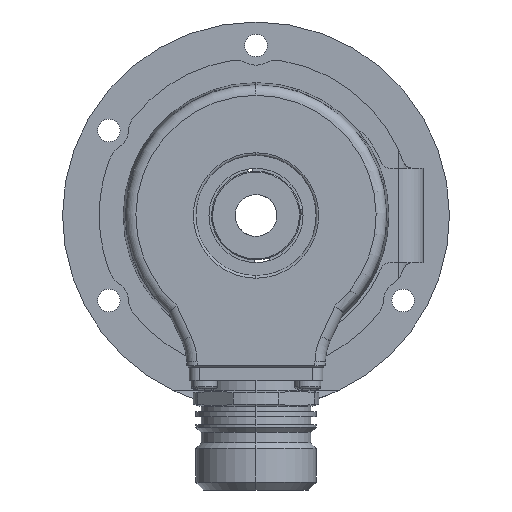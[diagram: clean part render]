
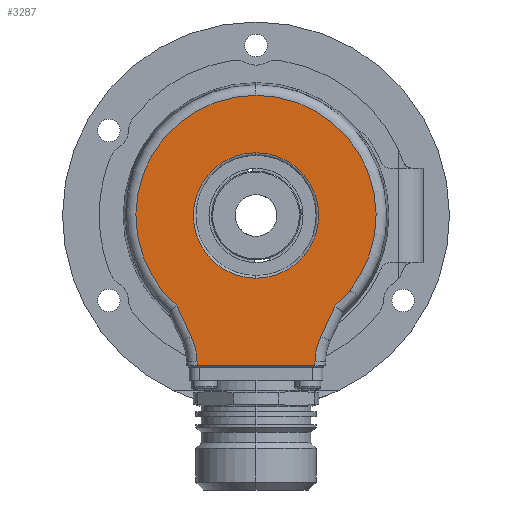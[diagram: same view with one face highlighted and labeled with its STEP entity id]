
A CAD part, left-side view. The second image highlights one B-rep face of the part: STEP entity #3287.
In plain terms, the highlighted planar face has unit normal (-1, 0, 0).
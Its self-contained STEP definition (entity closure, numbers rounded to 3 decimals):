
#2775 = EDGE_CURVE ( 'NONE', #2929, #3088, #13150, .T. ) ;
#2817 = VERTEX_POINT ( 'NONE', #13271 ) ;
#2819 = EDGE_CURVE ( 'NONE', #2820, #2817, #13270, .T. ) ;
#2820 = VERTEX_POINT ( 'NONE', #13265 ) ;
#2852 = EDGE_CURVE ( 'NONE', #2964, #2865, #13371, .T. ) ;
#2858 = EDGE_CURVE ( 'NONE', #2865, #2867, #13408, .T. ) ;
#2865 = VERTEX_POINT ( 'NONE', #13440 ) ;
#2867 = VERTEX_POINT ( 'NONE', #13441 ) ;
#2901 = VERTEX_POINT ( 'NONE', #13540 ) ;
#2902 = VERTEX_POINT ( 'NONE', #13539 ) ;
#2908 = VERTEX_POINT ( 'NONE', #13570 ) ;
#2910 = EDGE_CURVE ( 'NONE', #2902, #2908, #13569, .T. ) ;
#2921 = EDGE_CURVE ( 'NONE', #2867, #2902, #13640, .T. ) ;
#2929 = VERTEX_POINT ( 'NONE', #13685 ) ;
#2964 = VERTEX_POINT ( 'NONE', #13806 ) ;
#2966 = EDGE_CURVE ( 'NONE', #2901, #2964, #13804, .T. ) ;
#2991 = EDGE_CURVE ( 'NONE', #2908, #2929, #13882, .T. ) ;
#3044 = VERTEX_POINT ( 'NONE', #14010 ) ;
#3046 = EDGE_CURVE ( 'NONE', #3088, #3044, #14011, .T. ) ;
#3088 = VERTEX_POINT ( 'NONE', #14190 ) ;
#3139 = ORIENTED_EDGE ( 'NONE', *, *, #2991, .T. ) ;
#3147 = ORIENTED_EDGE ( 'NONE', *, *, #2852, .T. ) ;
#3148 = ORIENTED_EDGE ( 'NONE', *, *, #2858, .T. ) ;
#3149 = ORIENTED_EDGE ( 'NONE', *, *, #2921, .T. ) ;
#3150 = ORIENTED_EDGE ( 'NONE', *, *, #2910, .T. ) ;
#3213 = ORIENTED_EDGE ( 'NONE', *, *, #3286, .T. ) ;
#3230 = EDGE_LOOP ( 'NONE', ( #3231, #3232, #3234, #3236, #3147, #3148, #3149, #3150, #3139 ) ) ;
#3231 = ORIENTED_EDGE ( 'NONE', *, *, #2775, .T. ) ;
#3232 = ORIENTED_EDGE ( 'NONE', *, *, #3046, .T. ) ;
#3234 = ORIENTED_EDGE ( 'NONE', *, *, #3235, .T. ) ;
#3235 = EDGE_CURVE ( 'NONE', #3044, #2901, #14418, .T. ) ;
#3236 = ORIENTED_EDGE ( 'NONE', *, *, #2966, .T. ) ;
#3286 = EDGE_CURVE ( 'NONE', #2817, #2820, #15544, .T. ) ;
#3287 = ADVANCED_FACE ( 'NONE', ( #15534, #15533 ), #15570, .F. ) ;
#3288 = EDGE_LOOP ( 'NONE', ( #3289, #3213 ) ) ;
#3289 = ORIENTED_EDGE ( 'NONE', *, *, #2819, .T. ) ;
#13147 = DIRECTION ( 'NONE',  ( 0., -0.017, -1. ) ) ;
#13148 = VECTOR ( 'NONE', #13147, 1000. ) ;
#13149 = CARTESIAN_POINT ( 'NONE',  ( -21., 11.752, -0.205 ) ) ;
#13150 = LINE ( 'NONE', #13149, #13148 ) ;
#13265 = CARTESIAN_POINT ( 'NONE',  ( -21., 0., 12. ) ) ;
#13266 = DIRECTION ( 'NONE',  ( 0., 0., 1. ) ) ;
#13267 = DIRECTION ( 'NONE',  ( 1., 0., 0. ) ) ;
#13268 = CARTESIAN_POINT ( 'NONE',  ( -21., 0., 0. ) ) ;
#13269 = AXIS2_PLACEMENT_3D ( 'NONE', #13268, #13267, #13266 ) ;
#13270 = CIRCLE ( 'NONE', #13269, 12. ) ;
#13271 = CARTESIAN_POINT ( 'NONE',  ( -21., 0., -12. ) ) ;
#13368 = DIRECTION ( 'NONE',  ( 0., -0.423, 0.906 ) ) ;
#13369 = VECTOR ( 'NONE', #13368, 1000. ) ;
#13370 = CARTESIAN_POINT ( 'NONE',  ( -21., -14.953, -17.615 ) ) ;
#13371 = LINE ( 'NONE', #13370, #13369 ) ;
#13400 = DIRECTION ( 'NONE',  ( 0., 0., 1. ) ) ;
#13401 = DIRECTION ( 'NONE',  ( -1., 0., 0. ) ) ;
#13402 = CARTESIAN_POINT ( 'NONE',  ( -21., 0., 0. ) ) ;
#13403 = AXIS2_PLACEMENT_3D ( 'NONE', #13402, #13401, #13400 ) ;
#13408 = CIRCLE ( 'NONE', #13403, 22.972 ) ;
#13440 = CARTESIAN_POINT ( 'NONE',  ( -21., -15.091, -17.32 ) ) ;
#13441 = CARTESIAN_POINT ( 'NONE',  ( -21., 0., 22.972 ) ) ;
#13539 = CARTESIAN_POINT ( 'NONE',  ( -21., 15.091, -17.32 ) ) ;
#13540 = CARTESIAN_POINT ( 'NONE',  ( -21., -11.268, -27.974 ) ) ;
#13566 = DIRECTION ( 'NONE',  ( 0., -0.423, -0.906 ) ) ;
#13567 = VECTOR ( 'NONE', #13566, 1000. ) ;
#13568 = CARTESIAN_POINT ( 'NONE',  ( -21., 12.39, -23.112 ) ) ;
#13569 = LINE ( 'NONE', #13568, #13567 ) ;
#13570 = CARTESIAN_POINT ( 'NONE',  ( -21., 12.39, -23.112 ) ) ;
#13631 = DIRECTION ( 'NONE',  ( 0., 0., 1. ) ) ;
#13632 = DIRECTION ( 'NONE',  ( -1., 0., 0. ) ) ;
#13633 = CARTESIAN_POINT ( 'NONE',  ( -21., 0., 0. ) ) ;
#13634 = AXIS2_PLACEMENT_3D ( 'NONE', #13633, #13632, #13631 ) ;
#13640 = CIRCLE ( 'NONE', #13634, 22.972 ) ;
#13685 = CARTESIAN_POINT ( 'NONE',  ( -21., 11.268, -27.974 ) ) ;
#13800 = DIRECTION ( 'NONE',  ( 0., 0., 1. ) ) ;
#13801 = DIRECTION ( 'NONE',  ( 1., 0., 0. ) ) ;
#13802 = CARTESIAN_POINT ( 'NONE',  ( -21., -23.266, -28.183 ) ) ;
#13803 = AXIS2_PLACEMENT_3D ( 'NONE', #13802, #13801, #13800 ) ;
#13804 = CIRCLE ( 'NONE', #13803, 12. ) ;
#13806 = CARTESIAN_POINT ( 'NONE',  ( -21., -12.39, -23.112 ) ) ;
#13879 = DIRECTION ( 'NONE',  ( 0., 0., 1. ) ) ;
#13880 = DIRECTION ( 'NONE',  ( 1., 0., 0. ) ) ;
#13881 = AXIS2_PLACEMENT_3D ( 'NONE', #13885, #13880, #13879 ) ;
#13882 = CIRCLE ( 'NONE', #13881, 12. ) ;
#13885 = CARTESIAN_POINT ( 'NONE',  ( -21., 23.266, -28.183 ) ) ;
#14010 = CARTESIAN_POINT ( 'NONE',  ( -21., -11.255, -28.695 ) ) ;
#14011 = LINE ( 'NONE', #14053, #14052 ) ;
#14051 = DIRECTION ( 'NONE',  ( 0., -1., 0. ) ) ;
#14052 = VECTOR ( 'NONE', #14051, 1000. ) ;
#14053 = CARTESIAN_POINT ( 'NONE',  ( -21., -11.25, -28.695 ) ) ;
#14190 = CARTESIAN_POINT ( 'NONE',  ( -21., 11.255, -28.695 ) ) ;
#14416 = VECTOR ( 'NONE', #15365, 1000. ) ;
#14417 = CARTESIAN_POINT ( 'NONE',  ( -21., -11.752, -0.205 ) ) ;
#14418 = LINE ( 'NONE', #14417, #14416 ) ;
#15365 = DIRECTION ( 'NONE',  ( 0., -0.017, 1. ) ) ;
#15533 = FACE_OUTER_BOUND ( 'NONE', #3230, .T. ) ;
#15534 = FACE_BOUND ( 'NONE', #3288, .T. ) ;
#15535 = DIRECTION ( 'NONE',  ( 0., 0., 1. ) ) ;
#15536 = DIRECTION ( 'NONE',  ( 1., 0., 0. ) ) ;
#15537 = CARTESIAN_POINT ( 'NONE',  ( -21., 0., 0. ) ) ;
#15538 = AXIS2_PLACEMENT_3D ( 'NONE', #15537, #15536, #15535 ) ;
#15544 = CIRCLE ( 'NONE', #15538, 12. ) ;
#15564 = DIRECTION ( 'NONE',  ( 0., 0., 1. ) ) ;
#15565 = DIRECTION ( 'NONE',  ( 1., 0., 0. ) ) ;
#15566 = CARTESIAN_POINT ( 'NONE',  ( -21., 0., 0. ) ) ;
#15567 = AXIS2_PLACEMENT_3D ( 'NONE', #15566, #15565, #15564 ) ;
#15570 = PLANE ( 'NONE',  #15567 ) ;
